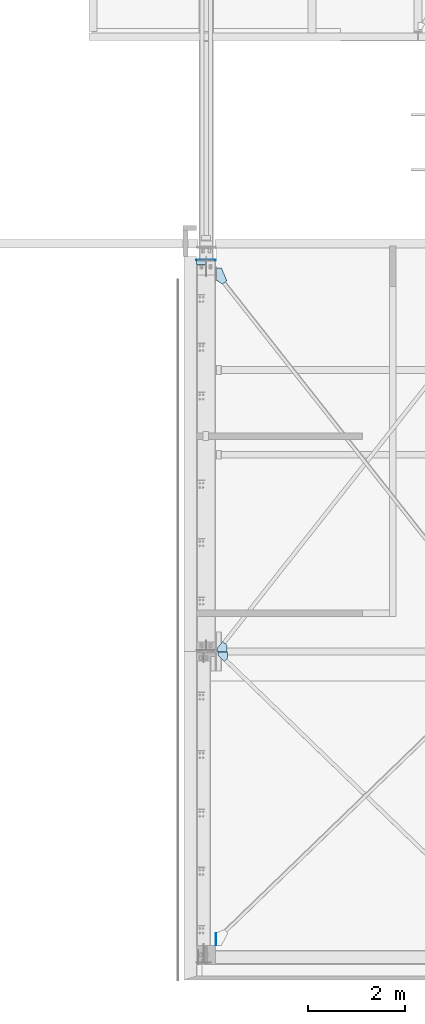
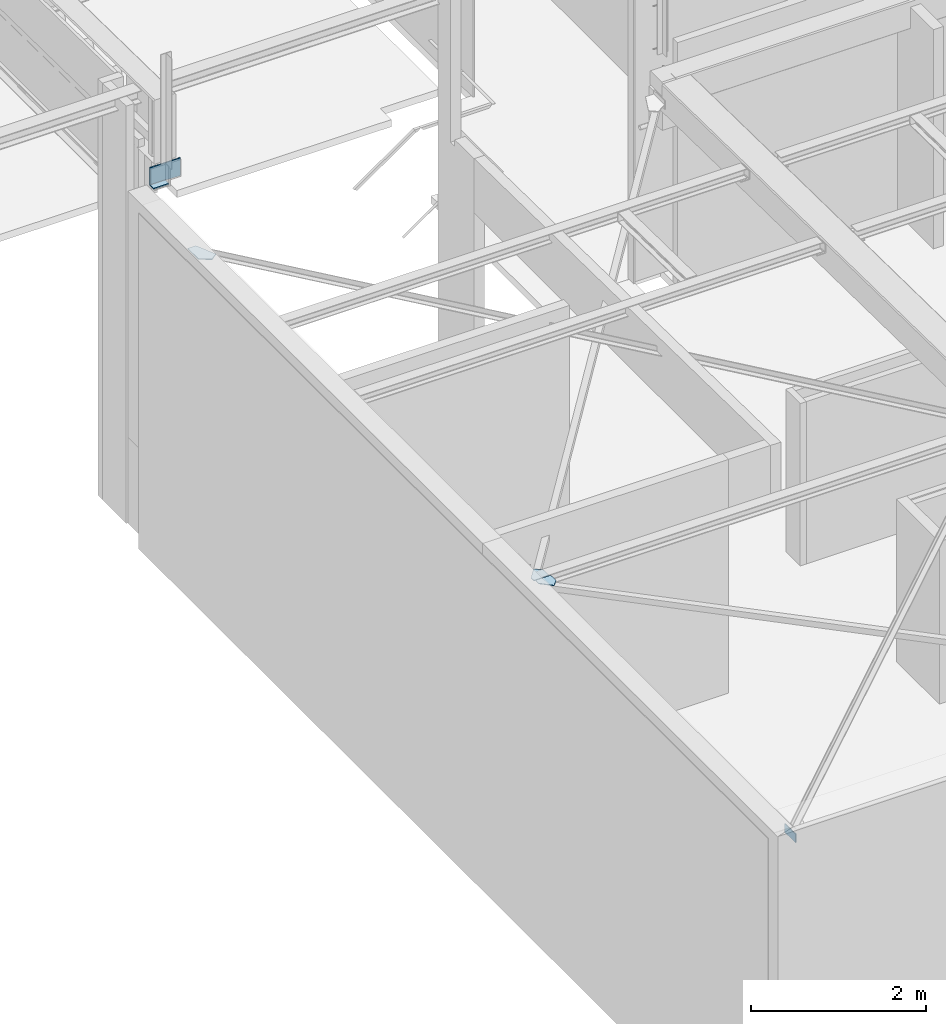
# One storey, part 115 of 186: 6 plates.
"""IFC4X3_ADD2 building model written with IfcOpenShell, lengths in millimetres."""

import ifcopenshell
import ifcopenshell.guid

model = None  # the IFC model being written
_history = None  # IfcOwnerHistory: only IFC2X3 demands one
_inside = {}  # id of a spatial element -> (the spatial element, [elements in it])
_under = {}  # id of a project, library or spatial element -> (it, [spatial elements below it])
_declared = {}  # id of a project -> (the project, [libraries it declares])
_typed = {}  # id of a type object -> (the type object, [elements of that type])
_made_of = {}  # id of a material, layer set ... -> (it, [elements and type objects made of it])


def new_model(schema):
    """Start an empty IFC model of exactly this schema.

    Asked for "IFC4X3", IfcOpenShell would pick the latest addendum, in which some entities
    have other attributes; the version numbers below select the first issue.
    IFC2X3 requires an IfcOwnerHistory on every rooted entity: one is made here for all.
    """
    global model, _history
    if schema == "IFC4X3":
        model = ifcopenshell.file(schema_version=(4, 3, 0, 0))
    else:
        model = ifcopenshell.file(schema=schema)
    _inside.clear()
    _under.clear()
    _declared.clear()
    _typed.clear()
    _made_of.clear()
    _history = None
    if model.schema == "IFC2X3":
        org = make("IfcOrganization", Name="unknown")
        user = make(
            "IfcPersonAndOrganization",
            ThePerson=make("IfcPerson", FamilyName="unknown"),
            TheOrganization=org,
        )
        app = make(
            "IfcApplication",
            ApplicationDeveloper=org,
            Version="unknown",
            ApplicationFullName="unknown",
            ApplicationIdentifier="unknown",
        )
        _history = make(
            "IfcOwnerHistory",
            OwningUser=user,
            OwningApplication=app,
            ChangeAction="ADDED",
            CreationDate=0,
        )
    return model


def make(cls, **values):
    """One entity of the class cls with the attributes given. An attribute that is None is left unset."""
    return model.create_entity(
        cls, **{name: value for name, value in values.items() if value is not None}
    )


def rooted(cls, **values):
    """An entity with a GlobalId (a new one), such as an element, a storey or a relation."""
    return make(cls, GlobalId=ifcopenshell.guid.new(), OwnerHistory=_history, **values)


def si_unit(unit_type, name, prefix=None):
    """IfcSIUnit, for example si_unit("LENGTHUNIT", "METRE", prefix="MILLI")."""
    return make("IfcSIUnit", UnitType=unit_type, Prefix=prefix, Name=name)


def assignment(units):
    """IfcUnitAssignment: the units of a project."""
    return None if units is None else make("IfcUnitAssignment", Units=units)


def point(xyz):
    """IfcCartesianPoint."""
    return None if xyz is None else make("IfcCartesianPoint", Coordinates=xyz)


def direction(xyz):
    """IfcDirection."""
    return None if xyz is None else make("IfcDirection", DirectionRatios=xyz)


def frame(location, z_axis=None, x_axis=None):
    """IfcAxis2Placement3D, a coordinate frame: its origin and axes. An axis left out is left unset."""
    return make(
        "IfcAxis2Placement3D",
        Location=point(location),
        Axis=direction(z_axis),
        RefDirection=direction(x_axis),
    )


def frame_2d(location, x_axis=None):
    """IfcAxis2Placement2D, a coordinate frame in the plane: its origin and x axis."""
    return make(
        "IfcAxis2Placement2D", Location=point(location), RefDirection=direction(x_axis)
    )


def origin_with_axes():
    """The frame at (0, 0, 0) with the z axis (0, 0, 1) and the x axis (1, 0, 0) written out."""
    return frame((0.0, 0.0, 0.0), z_axis=(0.0, 0.0, 1.0), x_axis=(1.0, 0.0, 0.0))


def place(relative_to, where):
    """IfcLocalPlacement: puts the frame where relative to a parent placement (None: the world)."""
    return make(
        "IfcLocalPlacement", PlacementRelTo=relative_to, RelativePlacement=where
    )


def context(
    kind, dimensions, precision=None, world=None, true_north=None, identifier=None
):
    """IfcGeometricRepresentationContext, for example the 3D "Model" context."""
    return make(
        "IfcGeometricRepresentationContext",
        ContextIdentifier=identifier,
        ContextType=kind,
        CoordinateSpaceDimension=dimensions,
        Precision=precision,
        WorldCoordinateSystem=world,
        TrueNorth=true_north,
    )


def subcontext(parent, identifier, kind, view, scale=None):
    """IfcGeometricRepresentationSubContext, for example "Body" below "Model"."""
    return make(
        "IfcGeometricRepresentationSubContext",
        ContextIdentifier=identifier,
        ContextType=kind,
        ParentContext=parent,
        TargetScale=scale,
        TargetView=view,
    )


def project(units=None, contexts=None):
    """IfcProject with its units and contexts."""
    return rooted(
        "IfcProject",
        Name="project",
        RepresentationContexts=contexts,
        UnitsInContext=assignment(units),
    )


def spatial(cls, under=None, at=None, **own):
    """A site, building, storey or space (cls), placed at a placement, below another one or the project."""
    s = rooted(cls, ObjectPlacement=at, **own)
    if under is not None:
        _under.setdefault(under.id(), (under, []))[1].append(s)
    return s


def polyline(points):
    """IfcPolyline through the points."""
    return make("IfcPolyline", Points=[point(p) for p in points])


def profile(cls, at=None, kind="AREA", **sizes):
    """A parametric profile (cls). Its sizes go by their IFC names, for example OverallWidth=200.0."""
    return make(cls, ProfileType=kind, Position=at, **sizes)


def rectangle(**sizes):
    """IfcRectangleProfileDef."""
    return profile("IfcRectangleProfileDef", **sizes)


def outline(outer, holes=None, kind="AREA"):
    """IfcArbitraryClosedProfileDef: a profile drawn as a closed curve; with holes, ...WithVoids."""
    if holes is None:
        return make("IfcArbitraryClosedProfileDef", ProfileType=kind, OuterCurve=outer)
    return make(
        "IfcArbitraryProfileDefWithVoids",
        ProfileType=kind,
        OuterCurve=outer,
        InnerCurves=holes,
    )


def extrude(swept, where, along, depth):
    """IfcExtrudedAreaSolid: the profile swept, set in the frame where, extruded along a direction by depth."""
    return make(
        "IfcExtrudedAreaSolid",
        SweptArea=swept,
        Position=where,
        ExtrudedDirection=direction(along),
        Depth=depth,
    )


def shape(context_of_items, identifier, shape_type, items):
    """IfcShapeRepresentation: the items that make up one representation, for example the "Body"."""
    return make(
        "IfcShapeRepresentation",
        ContextOfItems=context_of_items,
        RepresentationIdentifier=identifier,
        RepresentationType=shape_type,
        Items=items,
    )


def material(Name=None, Category=None):
    """IfcMaterial."""
    return make("IfcMaterial", Name=Name, Category=Category)


def made_of(thing, what):
    """Note that an element or type object is made of a material, layer set ...; save() writes the relation."""
    if what is not None:
        _made_of.setdefault(what.id(), (what, []))[1].append(thing)
    return thing


def element(
    cls,
    number,
    at=None,
    inside=None,
    cuts=None,
    type_object=None,
    material=None,
    context=None,
    identifier="Body",
    shape_type=None,
    held_by="IfcProductDefinitionShape",
    body=None,
    shapes=None,
    **own,
):
    """One element of the class cls, such as IfcWall. Its Tag is "e" and its number.

    at: its placement. inside: the storey or other place that contains it. cuts: it is an
    opening in that element (IfcRelVoidsElement). A single representation is given by context,
    identifier, shape_type and body (its items); several are given by shapes. held_by: the class
    of the entity that holds the representations. save() writes the other relations.
    """
    e = rooted(cls, Tag="e%d" % number, ObjectPlacement=at, **own)
    if body is not None:
        shapes = [shape(context, identifier, shape_type, body)]
    if shapes is not None:
        e.Representation = make(held_by, Representations=shapes)
    if inside is not None:
        _inside.setdefault(inside.id(), (inside, []))[1].append(e)
    if cuts is not None:
        rooted(
            "IfcRelVoidsElement", RelatingBuildingElement=cuts, RelatedOpeningElement=e
        )
    if type_object is not None:
        _typed.setdefault(type_object.id(), (type_object, []))[1].append(e)
    return made_of(e, material)


def aggregate(whole, parts):
    """IfcRelAggregates: a whole, such as a stair, and the parts it consists of."""
    return rooted("IfcRelAggregates", RelatingObject=whole, RelatedObjects=parts)


def save(model, path):
    """Write the relations noted so far, then the file.

    IfcRelAggregates (storeys below a building ...), IfcRelContainedInSpatialStructure (elements
    in a storey), IfcRelDefinesByType, IfcRelAssociatesMaterial and IfcRelDeclares: one each for
    every whole, place, type object, material and project.
    """
    for whole, parts in _under.values():
        aggregate(whole, parts)
    for where, things in _inside.values():
        rooted(
            "IfcRelContainedInSpatialStructure",
            RelatedElements=things,
            RelatingStructure=where,
        )
    for kind, things in _typed.values():
        rooted("IfcRelDefinesByType", RelatedObjects=things, RelatingType=kind)
    for what, things in _made_of.values():
        rooted("IfcRelAssociatesMaterial", RelatedObjects=things, RelatingMaterial=what)
    for by, libraries in _declared.values():
        rooted("IfcRelDeclares", RelatingContext=by, RelatedDefinitions=libraries)
    model.write(path)


model = new_model("IFC4X3_ADD2")

# Units and contexts
model_context = context("Model", 3, precision=1e-05, world=origin_with_axes(), true_north=direction((0.0, 1.0)))
body_context = subcontext(model_context, "Body", "Model", "MODEL_VIEW")
ifc_project = project(units=[si_unit("LENGTHUNIT", "METRE", prefix="MILLI"), si_unit("AREAUNIT", "SQUARE_METRE"), si_unit("VOLUMEUNIT", "CUBIC_METRE"), si_unit("PLANEANGLEUNIT", "RADIAN"), si_unit("TIMEUNIT", "SECOND"), si_unit("MASSUNIT", "GRAM")], contexts=[model_context])

# Site, building, storey
site_placement = place(None, origin_with_axes())
site = spatial("IfcSite", under=ifc_project, at=site_placement, Name="Site", CompositionType="ELEMENT")
building_placement = place(site_placement, origin_with_axes())
building = spatial("IfcBuilding", under=site, at=building_placement, Name="IFC Building Story")
storey_placement = place(building_placement, frame((0.0, 0.0, 4370.0), z_axis=(0.0, 0.0, 1.0), x_axis=(1.0, 0.0, 0.0)))
storey = spatial("IfcBuildingStorey", under=building, at=storey_placement, Name="ETAGE 10 (1)", Elevation=4370.0)

# Plates
ifc_material = material(Name="Acier - B 500 B")
plate_1_placement = place(storey_placement, frame((33646.528308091, -8235.15635691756, 3044.646840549), z_axis=(0.0, 0.0, 1.0), x_axis=(1.0, 0.0, 0.0)))
element("IfcPlate", 1, at=plate_1_placement, inside=storey, material=ifc_material, Name="-", ObjectType="Aucun", context=body_context, shape_type="SweptSolid", body=[
    extrude(outline(polyline([(94.1118351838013, 78.90952656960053), (94.1118351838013, -45.62042974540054), (23.55265926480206, -118.6394449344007), (-105.8881648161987, 6.440821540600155), (-105.8881648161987, 78.90952656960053), (94.1118351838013, 78.90952656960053)])), frame((105.8881648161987, 118.626100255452, 1.183509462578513), z_axis=(0.0, 0.01499830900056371, 0.9998875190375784), x_axis=(1.0, 0.0, 0.0)), (0.0, 0.0, 1.0), 10.0),
])
plate_2_placement = place(storey_placement, frame((33628.258455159, -7826.073164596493, 3041.980387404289), z_axis=(0.0, 0.0, 1.0), x_axis=(0.0, -1.0, 0.0)))
element("IfcPlate", 2, at=plate_2_placement, inside=storey, material=ifc_material, Name="-", ObjectType="Aucun", context=body_context, shape_type="SweptSolid", body=[
    extrude(outline(polyline([(81.2994442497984, -102.2798115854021), (16.78870806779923, -102.2798115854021), (-124.5982680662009, 9.119246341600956), (-54.78932850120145, 97.72018841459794), (81.2994442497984, 97.72018841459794), (81.2994442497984, -102.2798115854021)])), frame((124.7436224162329, 102.2798115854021, 2.013891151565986), z_axis=(-0.016163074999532, 0.0, 0.999869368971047), x_axis=(0.9998693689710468, 0.0, 0.016163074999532)), (0.0, 0.0, 1.0), 9.999999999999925),
])
plate_3_placement = place(storey_placement, frame((33518.16560469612, -188.062136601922, 2906.978911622), z_axis=(0.0, 0.0, 1.0), x_axis=(0.3910289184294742, -0.9203783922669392, 0.0)))
element("IfcPlate", 3, at=plate_3_placement, inside=storey, material=ifc_material, Name="-", ObjectType="Aucun", context=body_context, shape_type="SweptSolid", body=[
    extrude(outline(polyline([(-191.9319169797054, -18.32049201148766), (-149.7237334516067, 81.09012164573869), (136.9090074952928, 81.0663594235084), (166.5881704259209, -27.74879590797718), (38.15847251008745, -116.0871931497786), (-191.9319169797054, -18.32049201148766)])), frame((192.0528726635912, 116.0819852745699, 2.572573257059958), z_axis=(-0.01396800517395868, 0.005934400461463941, 0.999884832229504), x_axis=(0.9999024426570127, 8.28998238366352e-05, 0.01396775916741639)), (0.0, 0.0, 1.0), 10.0),
])
plate_4_placement = place(storey_placement, frame((33200.689451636, -82.00179481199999, 3840.000419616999), z_axis=(0.0, 0.0, 1.0), x_axis=(0.9999999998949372, 1.449571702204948e-05, 0.0)))
element("IfcPlate", 4, at=plate_4_placement, inside=storey, material=ifc_material, Name="-", ObjectType="Aucun", context=body_context, shape_type="SweptSolid", body=[
    extrude(outline(polyline([(100.0003775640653, -50.00114440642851), (-100.0014571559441, -50.00114440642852), (-100.0003775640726, 50.00114440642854), (100.0014571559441, 50.00114440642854), (100.0003775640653, -50.00114440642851)])), frame((100.0014571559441, 50.00114440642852, 1.818989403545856e-12), z_axis=(0.0, 0.0, 1.0), x_axis=(1.0, 0.0, 0.0)), (0.0, 0.0, 1.0), 15.0),
])
plate_5_placement = place(storey_placement, frame((33200.689137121, 3.001104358, 3840.000419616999), z_axis=(0.0, 0.0, 1.0), x_axis=(1.0, 0.0, 0.0)))
element("IfcPlate", 5, at=plate_5_placement, inside=storey, material=ifc_material, Name="-", ObjectType="Aucun", context=body_context, shape_type="SweptSolid", body=[
    extrude(outline(polyline([(200.0010746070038, 128.75), (200.0010746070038, -121.25), (-200.0010746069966, -121.25), (-200.0010746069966, 113.75), (200.0010746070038, 128.75)])), frame((200.0010746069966, 0.0, 128.75), z_axis=(0.0, 1.0, 0.0), x_axis=(1.0, 0.0, 0.0)), (0.0, 0.0, 1.0), 15.0),
])
plate_6_placement = place(storey_placement, frame((33596.187698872, -13817.45846672, 3061.862977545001), z_axis=(0.0, 0.0, 1.0), x_axis=(0.0, -1.0, 0.0)))
element("IfcPlate", 6, at=plate_6_placement, inside=storey, material=ifc_material, Name="-", ObjectType="Aucun", context=body_context, shape_type="SweptSolid", body=[
    extrude(rectangle(XDim=249.9999999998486, YDim=12.0, at=frame_2d((0.0, 5.95523630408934e-12), x_axis=(-1.0, 0.0))), frame((126.7857369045, 6.0, 1.874788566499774), z_axis=(-0.01499830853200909, 0.0, 0.9998875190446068), x_axis=(0.9998875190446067, 0.0, 0.01499830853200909)), (0.0, 0.0, 1.0), 120.0000000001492),
])

save(model, "model.ifc")
